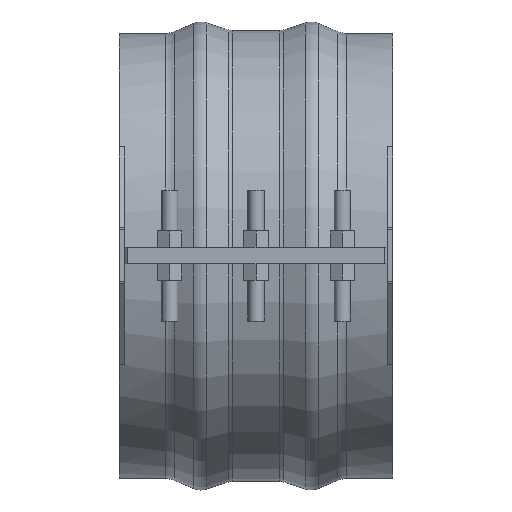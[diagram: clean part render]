
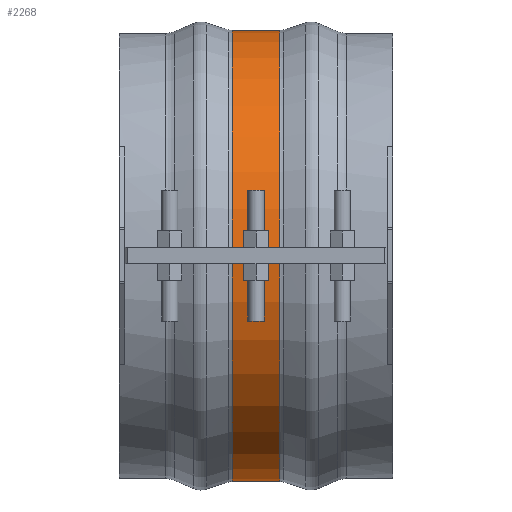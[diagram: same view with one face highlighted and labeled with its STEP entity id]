
A CAD part, top view. The second image highlights one B-rep face of the part: STEP entity #2268.
In plain terms, the highlighted cylindrical face has radius 262.24 mm (diameter 524.479 mm), a partial arc.
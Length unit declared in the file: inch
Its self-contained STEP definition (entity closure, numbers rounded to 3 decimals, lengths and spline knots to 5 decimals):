
#266=FACE_OUTER_BOUND('',#395,.T.);
#395=EDGE_LOOP('',(#1872,#1873,#1874,#1875));
#597=LINE('',#3675,#788);
#602=LINE('',#3760,#793);
#788=VECTOR('',#2968,0.3937);
#793=VECTOR('',#2977,0.3937);
#848=CIRCLE('',#2449,10.32439);
#849=CIRCLE('',#2451,10.32439);
#1054=VERTEX_POINT('',#3667);
#1055=VERTEX_POINT('',#3674);
#1066=VERTEX_POINT('',#3752);
#1067=VERTEX_POINT('',#3759);
#1333=EDGE_CURVE('',#1055,#1054,#597,.T.);
#1348=EDGE_CURVE('',#1067,#1066,#602,.T.);
#1360=EDGE_CURVE('',#1055,#1066,#848,.T.);
#1361=EDGE_CURVE('',#1054,#1067,#849,.T.);
#1872=ORIENTED_EDGE('',*,*,#1333,.T.);
#1873=ORIENTED_EDGE('',*,*,#1361,.T.);
#1874=ORIENTED_EDGE('',*,*,#1348,.T.);
#1875=ORIENTED_EDGE('',*,*,#1360,.F.);
#2053=CYLINDRICAL_SURFACE('',#2450,10.32439);
#2268=ADVANCED_FACE('',(#266),#2053,.T.);
#2449=AXIS2_PLACEMENT_3D('',#3810,#2999,#3000);
#2450=AXIS2_PLACEMENT_3D('',#3811,#3001,#3002);
#2451=AXIS2_PLACEMENT_3D('',#3812,#3003,#3004);
#2968=DIRECTION('',(-1.,0.,0.));
#2977=DIRECTION('',(1.,0.,0.));
#2999=DIRECTION('center_axis',(1.,0.,0.));
#3000=DIRECTION('ref_axis',(0.,0.,-1.));
#3001=DIRECTION('center_axis',(1.,0.,0.));
#3002=DIRECTION('ref_axis',(0.,0.,
-1.));
#3003=DIRECTION('center_axis',(1.,0.,0.));
#3004=DIRECTION('ref_axis',(0.,0.,-1.));
#3667=CARTESIAN_POINT('',(-1.08851,-0.375,10.31758));
#3674=CARTESIAN_POINT('',(1.08851,-0.375,10.31758));
#3675=CARTESIAN_POINT('',(0.,-0.375,10.31758));
#3752=CARTESIAN_POINT('',(1.08851,0.375,10.31758));
#3759=CARTESIAN_POINT('',(-1.08851,0.375,10.31758));
#3760=CARTESIAN_POINT('',(0.,0.375,10.31758));
#3810=CARTESIAN_POINT('Origin',(1.08851,0.,0.));
#3811=CARTESIAN_POINT('Origin',(0.,0.,0.));
#3812=CARTESIAN_POINT('Origin',(-1.08851,0.,
0.));
